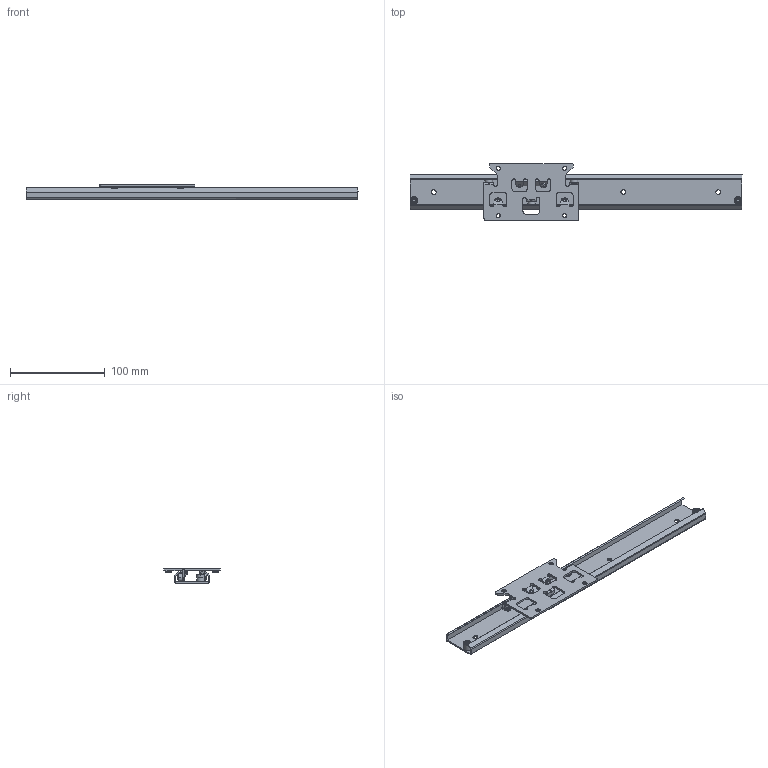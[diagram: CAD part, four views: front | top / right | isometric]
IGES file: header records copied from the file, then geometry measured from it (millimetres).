
Global section: native system: Kubotek KeyCreator; preprocessor: KCM Version 1.1.1442.0; author: KeyCreator User; organization: Self; date: 20181022.103114; units: millimetre
Bounding box: 350 x 60 x 14.8 mm (x, y, z)
Surface area: 58584.2 mm2 (no closed solid volume)
Topology: 0 solids, 0 shells, 907 faces, 5997 edges, 5998 vertices
Faces by surface type: bspline 907
